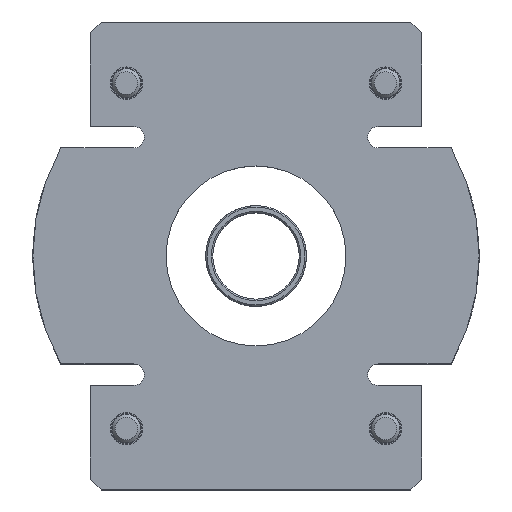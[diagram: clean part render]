
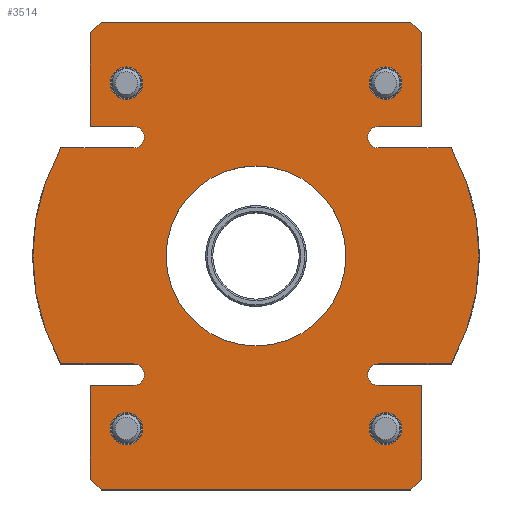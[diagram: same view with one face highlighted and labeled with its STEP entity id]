
A CAD part, top view. The second image highlights one B-rep face of the part: STEP entity #3514.
In plain terms, the highlighted planar face has unit normal (0, 0, 1) as drawn and (0, 0, -1) by its records, which use the part's own axes.
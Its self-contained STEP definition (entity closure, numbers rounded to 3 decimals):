
#178=FACE_BOUND('',#679,.T.);
#179=FACE_BOUND('',#680,.T.);
#180=FACE_BOUND('',#681,.T.);
#181=FACE_BOUND('',#682,.T.);
#182=FACE_BOUND('',#683,.T.);
#332=PLANE('',#3980);
#449=FACE_OUTER_BOUND('',#678,.T.);
#678=EDGE_LOOP('',(#2837,#2838,#2839,#2840,#2841,#2842,#2843,#2844,#2845,
#2846,#2847,#2848,#2849,#2850,#2851,#2852,#2853,#2854,#2855,#2856,#2857,
#2858,#2859,#2860));
#679=EDGE_LOOP('',(#2861));
#680=EDGE_LOOP('',(#2862));
#681=EDGE_LOOP('',(#2863));
#682=EDGE_LOOP('',(#2864));
#683=EDGE_LOOP('',(#2865,#2866));
#844=LINE('',#5513,#1068);
#848=LINE('',#5520,#1072);
#868=LINE('',#5589,#1092);
#871=LINE('',#5594,#1095);
#873=LINE('',#5598,#1097);
#875=LINE('',#5602,#1099);
#877=LINE('',#5607,#1101);
#879=LINE('',#5610,#1103);
#883=LINE('',#5633,#1107);
#888=LINE('',#5646,#1112);
#892=LINE('',#5656,#1116);
#895=LINE('',#5664,#1119);
#905=LINE('',#5707,#1129);
#924=LINE('',#5748,#1148);
#932=LINE('',#5779,#1156);
#937=LINE('',#5797,#1161);
#940=LINE('',#5804,#1164);
#941=LINE('',#5806,#1165);
#1068=VECTOR('',#4440,10.);
#1072=VECTOR('',#4446,10.);
#1092=VECTOR('',#4498,10.);
#1095=VECTOR('',#4503,10.);
#1097=VECTOR('',#4507,10.);
#1099=VECTOR('',#4511,10.);
#1101=VECTOR('',#4515,10.);
#1103=VECTOR('',#4519,10.);
#1107=VECTOR('',#4545,10.);
#1112=VECTOR('',#4560,10.);
#1116=VECTOR('',#4570,10.);
#1119=VECTOR('',#4579,10.);
#1129=VECTOR('',#4625,10.);
#1148=VECTOR('',#4658,10.);
#1156=VECTOR('',#4696,10.);
#1161=VECTOR('',#4717,10.);
#1164=VECTOR('',#4726,10.);
#1165=VECTOR('',#4729,10.);
#1314=CIRCLE('',#3907,1.5);
#1315=CIRCLE('',#3909,1.5);
#1316=CIRCLE('',#3912,1.5);
#1317=CIRCLE('',#3915,1.5);
#1336=CIRCLE('',#3953,31.);
#1341=CIRCLE('',#3966,31.);
#1342=CIRCLE('',#3970,2.25);
#1343=CIRCLE('',#3972,2.25);
#1344=CIRCLE('',#3974,2.25);
#1345=CIRCLE('',#3976,2.25);
#1346=CIRCLE('',#3978,12.5);
#1347=CIRCLE('',#3979,12.5);
#1523=VERTEX_POINT('',#5510);
#1524=VERTEX_POINT('',#5512);
#1526=VERTEX_POINT('',#5518);
#1558=VERTEX_POINT('',#5586);
#1559=VERTEX_POINT('',#5588);
#1560=VERTEX_POINT('',#5592);
#1561=VERTEX_POINT('',#5596);
#1562=VERTEX_POINT('',#5600);
#1563=VERTEX_POINT('',#5604);
#1564=VERTEX_POINT('',#5606);
#1571=VERTEX_POINT('',#5630);
#1572=VERTEX_POINT('',#5632);
#1573=VERTEX_POINT('',#5636);
#1574=VERTEX_POINT('',#5640);
#1575=VERTEX_POINT('',#5642);
#1576=VERTEX_POINT('',#5648);
#1577=VERTEX_POINT('',#5650);
#1578=VERTEX_POINT('',#5654);
#1579=VERTEX_POINT('',#5658);
#1580=VERTEX_POINT('',#5660);
#1595=VERTEX_POINT('',#5706);
#1610=VERTEX_POINT('',#5746);
#1623=VERTEX_POINT('',#5796);
#1624=VERTEX_POINT('',#5800);
#1625=VERTEX_POINT('',#5808);
#1626=VERTEX_POINT('',#5812);
#1627=VERTEX_POINT('',#5816);
#1628=VERTEX_POINT('',#5820);
#1629=VERTEX_POINT('',#5824);
#1630=VERTEX_POINT('',#5825);
#1914=EDGE_CURVE('',#1523,#1524,#844,.T.);
#1918=EDGE_CURVE('',#1526,#1523,#848,.T.);
#1952=EDGE_CURVE('',#1558,#1559,#868,.T.);
#1955=EDGE_CURVE('',#1560,#1558,#871,.T.);
#1957=EDGE_CURVE('',#1561,#1560,#873,.T.);
#1959=EDGE_CURVE('',#1562,#1561,#875,.T.);
#1961=EDGE_CURVE('',#1563,#1564,#877,.T.);
#1963=EDGE_CURVE('',#1524,#1563,#879,.T.);
#1973=EDGE_CURVE('',#1572,#1571,#883,.T.);
#1975=EDGE_CURVE('',#1573,#1572,#1314,.T.);
#1978=EDGE_CURVE('',#1575,#1574,#1315,.T.);
#1980=EDGE_CURVE('',#1562,#1575,#888,.T.);
#1982=EDGE_CURVE('',#1577,#1576,#1316,.T.);
#1985=EDGE_CURVE('',#1576,#1578,#892,.T.);
#1987=EDGE_CURVE('',#1580,#1579,#1317,.T.);
#1989=EDGE_CURVE('',#1526,#1580,#895,.T.);
#2009=EDGE_CURVE('',#1595,#1577,#905,.T.);
#2030=EDGE_CURVE('',#1574,#1610,#924,.T.);
#2043=EDGE_CURVE('',#1595,#1610,#1336,.T.);
#2045=EDGE_CURVE('',#1564,#1578,#932,.T.);
#2054=EDGE_CURVE('',#1623,#1573,#937,.T.);
#2056=EDGE_CURVE('',#1624,#1623,#1341,.T.);
#2058=EDGE_CURVE('',#1579,#1624,#940,.T.);
#2059=EDGE_CURVE('',#1559,#1571,#941,.T.);
#2061=EDGE_CURVE('',#1625,#1625,#1342,.T.);
#2063=EDGE_CURVE('',#1626,#1626,#1343,.T.);
#2065=EDGE_CURVE('',#1627,#1627,#1344,.T.);
#2067=EDGE_CURVE('',#1628,#1628,#1345,.T.);
#2068=EDGE_CURVE('',#1629,#1630,#1346,.T.);
#2069=EDGE_CURVE('',#1630,#1629,#1347,.T.);
#2837=ORIENTED_EDGE('',*,*,#1914,.F.);
#2838=ORIENTED_EDGE('',*,*,#1918,.F.);
#2839=ORIENTED_EDGE('',*,*,#1989,.T.);
#2840=ORIENTED_EDGE('',*,*,#1987,.T.);
#2841=ORIENTED_EDGE('',*,*,#2058,.T.);
#2842=ORIENTED_EDGE('',*,*,#2056,.T.);
#2843=ORIENTED_EDGE('',*,*,#2054,.T.);
#2844=ORIENTED_EDGE('',*,*,#1975,.T.);
#2845=ORIENTED_EDGE('',*,*,#1973,.T.);
#2846=ORIENTED_EDGE('',*,*,#2059,.F.);
#2847=ORIENTED_EDGE('',*,*,#1952,.F.);
#2848=ORIENTED_EDGE('',*,*,#1955,.F.);
#2849=ORIENTED_EDGE('',*,*,#1957,.F.);
#2850=ORIENTED_EDGE('',*,*,#1959,.F.);
#2851=ORIENTED_EDGE('',*,*,#1980,.T.);
#2852=ORIENTED_EDGE('',*,*,#1978,.T.);
#2853=ORIENTED_EDGE('',*,*,#2030,.T.);
#2854=ORIENTED_EDGE('',*,*,#2043,.F.);
#2855=ORIENTED_EDGE('',*,*,#2009,.T.);
#2856=ORIENTED_EDGE('',*,*,#1982,.T.);
#2857=ORIENTED_EDGE('',*,*,#1985,.T.);
#2858=ORIENTED_EDGE('',*,*,#2045,.F.);
#2859=ORIENTED_EDGE('',*,*,#1961,.F.);
#2860=ORIENTED_EDGE('',*,*,#1963,.F.);
#2861=ORIENTED_EDGE('',*,*,#2061,.T.);
#2862=ORIENTED_EDGE('',*,*,#2063,.T.);
#2863=ORIENTED_EDGE('',*,*,#2065,.T.);
#2864=ORIENTED_EDGE('',*,*,#2067,.T.);
#2865=ORIENTED_EDGE('',*,*,#2068,.T.);
#2866=ORIENTED_EDGE('',*,*,#2069,.T.);
#3514=ADVANCED_FACE('',(#449,#178,#179,#180,#181,#182),#332,.F.);
#3907=AXIS2_PLACEMENT_3D('',#5637,#4549,#4550);
#3909=AXIS2_PLACEMENT_3D('',#5643,#4555,#4556);
#3912=AXIS2_PLACEMENT_3D('',#5651,#4564,#4565);
#3915=AXIS2_PLACEMENT_3D('',#5661,#4574,#4575);
#3953=AXIS2_PLACEMENT_3D('',#5774,#4687,#4688);
#3966=AXIS2_PLACEMENT_3D('',#5801,#4721,#4722);
#3970=AXIS2_PLACEMENT_3D('',#5810,#4733,#4734);
#3972=AXIS2_PLACEMENT_3D('',#5814,#4738,#4739);
#3974=AXIS2_PLACEMENT_3D('',#5818,#4743,#4744);
#3976=AXIS2_PLACEMENT_3D('',#5822,#4748,#4749);
#3978=AXIS2_PLACEMENT_3D('',#5826,#4752,#4753);
#3979=AXIS2_PLACEMENT_3D('',#5827,#4754,#4755);
#3980=AXIS2_PLACEMENT_3D('',#5829,#4757,#4758);
#4440=DIRECTION('',(-0.707,-0.707,0.));
#4446=DIRECTION('',(-1.,0.,0.));
#4498=DIRECTION('',(-0.707,0.707,0.));
#4503=DIRECTION('',(0.,1.,0.));
#4507=DIRECTION('',(0.707,0.707,0.));
#4511=DIRECTION('',(1.,0.,0.));
#4515=DIRECTION('',(0.707,-0.707,0.));
#4519=DIRECTION('',(0.,-1.,0.));
#4545=DIRECTION('',(0.,1.,0.));
#4549=DIRECTION('center_axis',(0.,0.,1.));
#4550=DIRECTION('ref_axis',(-1.,0.,0.));
#4555=DIRECTION('center_axis',(0.,0.,1.));
#4556=DIRECTION('ref_axis',(1.,0.,0.));
#4560=DIRECTION('',(0.,1.,0.));
#4564=DIRECTION('center_axis',(0.,0.,1.));
#4565=DIRECTION('ref_axis',(-1.,0.,0.));
#4570=DIRECTION('',(0.,-1.,0.));
#4574=DIRECTION('center_axis',(0.,0.,1.));
#4575=DIRECTION('ref_axis',(1.,0.,0.));
#4579=DIRECTION('',(0.,-1.,0.));
#4625=DIRECTION('',(0.,1.,0.));
#4658=DIRECTION('',(0.,-1.,0.));
#4687=DIRECTION('center_axis',(0.,0.,1.));
#4688=DIRECTION('ref_axis',(1.,0.,0.));
#4696=DIRECTION('',(1.,0.,0.));
#4717=DIRECTION('',(0.,-1.,0.));
#4721=DIRECTION('center_axis',(0.,0.,-1.));
#4722=DIRECTION('ref_axis',(1.,0.,0.));
#4726=DIRECTION('',(0.,1.,0.));
#4729=DIRECTION('',(-1.,0.,0.));
#4733=DIRECTION('center_axis',(0.,0.,1.));
#4734=DIRECTION('ref_axis',(1.,0.,0.));
#4738=DIRECTION('center_axis',(0.,0.,1.));
#4739=DIRECTION('ref_axis',(1.,0.,0.));
#4743=DIRECTION('center_axis',(0.,0.,1.));
#4744=DIRECTION('ref_axis',(1.,0.,0.));
#4748=DIRECTION('center_axis',(0.,0.,1.));
#4749=DIRECTION('ref_axis',(1.,0.,0.));
#4752=DIRECTION('center_axis',(0.,0.,1.));
#4753=DIRECTION('ref_axis',(1.,0.,0.));
#4754=DIRECTION('center_axis',(0.,0.,1.));
#4755=DIRECTION('ref_axis',(1.,0.,0.));
#4757=DIRECTION('center_axis',(0.,0.,1.));
#4758=DIRECTION('ref_axis',(1.,0.,0.));
#5510=CARTESIAN_POINT('',(-31.,23.,0.));
#5512=CARTESIAN_POINT('',(-32.5,21.5,0.));
#5513=CARTESIAN_POINT('',(-29.375,24.625,0.));
#5518=CARTESIAN_POINT('',(-18.,23.,0.));
#5520=CARTESIAN_POINT('',(32.5,23.,0.));
#5586=CARTESIAN_POINT('',(32.5,21.5,0.));
#5588=CARTESIAN_POINT('',(31.,23.,0.));
#5589=CARTESIAN_POINT('',(29.375,24.625,0.));
#5592=CARTESIAN_POINT('',(32.5,-21.5,0.));
#5594=CARTESIAN_POINT('',(32.5,-23.,0.));
#5596=CARTESIAN_POINT('',(31.,-23.,0.));
#5598=CARTESIAN_POINT('',(29.375,-24.625,0.));
#5600=CARTESIAN_POINT('',(18.,-23.,0.));
#5602=CARTESIAN_POINT('',(-32.5,-23.,0.));
#5604=CARTESIAN_POINT('',(-32.5,-21.5,0.));
#5606=CARTESIAN_POINT('',(-31.,-23.,0.));
#5607=CARTESIAN_POINT('',(-29.375,-24.625,0.));
#5610=CARTESIAN_POINT('',(-32.5,23.,0.));
#5630=CARTESIAN_POINT('',(18.,23.,0.));
#5632=CARTESIAN_POINT('',(18.,17.,0.));
#5633=CARTESIAN_POINT('',(18.,11.5,0.));
#5636=CARTESIAN_POINT('',(15.,17.,0.));
#5637=CARTESIAN_POINT('Origin',(16.5,17.,0.));
#5640=CARTESIAN_POINT('',(15.,-17.,0.));
#5642=CARTESIAN_POINT('',(18.,-17.,0.));
#5643=CARTESIAN_POINT('Origin',(16.5,-17.,0.));
#5646=CARTESIAN_POINT('',(18.,-8.5,0.));
#5648=CARTESIAN_POINT('',(-18.,-17.,0.));
#5650=CARTESIAN_POINT('',(-15.,-17.,0.));
#5651=CARTESIAN_POINT('Origin',(-16.5,-17.,0.));
#5654=CARTESIAN_POINT('',(-18.,-23.,0.));
#5656=CARTESIAN_POINT('',(-18.,-8.5,0.));
#5658=CARTESIAN_POINT('',(-15.,17.,0.));
#5660=CARTESIAN_POINT('',(-18.,17.,0.));
#5661=CARTESIAN_POINT('Origin',(-16.5,17.,0.));
#5664=CARTESIAN_POINT('',(-18.,11.5,0.));
#5706=CARTESIAN_POINT('',(-15.,-27.129,0.));
#5707=CARTESIAN_POINT('',(-15.,-11.5,0.));
#5746=CARTESIAN_POINT('',(15.,-27.129,0.));
#5748=CARTESIAN_POINT('',(15.,-11.5,0.));
#5774=CARTESIAN_POINT('Origin',(0.,0.,0.));
#5779=CARTESIAN_POINT('',(-32.5,-23.,0.));
#5796=CARTESIAN_POINT('',(15.,27.129,0.));
#5797=CARTESIAN_POINT('',(15.,7.5,0.));
#5800=CARTESIAN_POINT('',(-15.,27.129,0.));
#5801=CARTESIAN_POINT('Origin',(0.,0.,0.));
#5804=CARTESIAN_POINT('',(-15.,8.5,0.));
#5806=CARTESIAN_POINT('',(32.5,23.,0.));
#5808=CARTESIAN_POINT('',(21.75,18.,0.));
#5810=CARTESIAN_POINT('Origin',(24.,18.,0.));
#5812=CARTESIAN_POINT('',(-26.25,-18.,0.));
#5814=CARTESIAN_POINT('Origin',(-24.,-18.,0.));
#5816=CARTESIAN_POINT('',(-26.25,18.,0.));
#5818=CARTESIAN_POINT('Origin',(-24.,18.,0.));
#5820=CARTESIAN_POINT('',(21.75,-18.,0.));
#5822=CARTESIAN_POINT('Origin',(24.,-18.,0.));
#5824=CARTESIAN_POINT('',(12.5,0.,0.));
#5825=CARTESIAN_POINT('',(-12.5,0.,0.));
#5826=CARTESIAN_POINT('Origin',(0.,0.,0.));
#5827=CARTESIAN_POINT('Origin',(0.,0.,0.));
#5829=CARTESIAN_POINT('Origin',(0.,0.,
0.));
